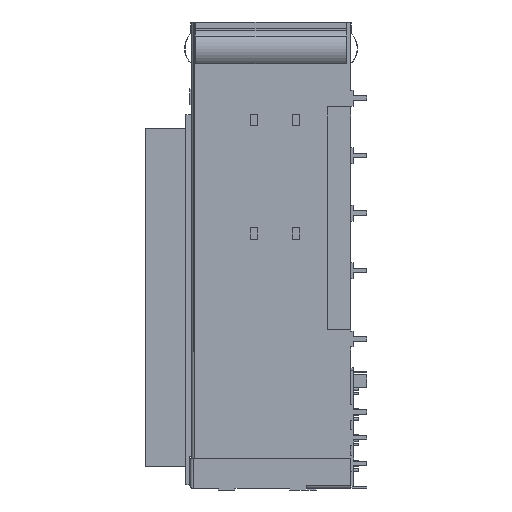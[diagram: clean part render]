
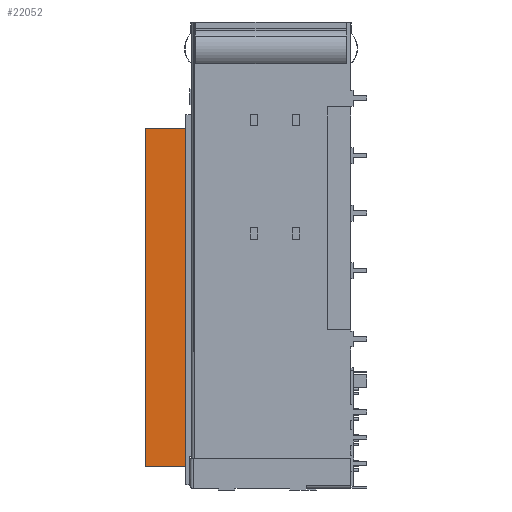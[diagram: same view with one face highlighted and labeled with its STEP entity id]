
A CAD part, left-side view. The second image highlights one B-rep face of the part: STEP entity #22052.
In plain terms, the highlighted planar face has unit normal (-1, 0, 0) as drawn and (0, 0, -1) by its records, which use the part's own axes.
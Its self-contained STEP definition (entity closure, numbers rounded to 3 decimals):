
#3039 = VECTOR ( 'NONE', #6416, 1000. ) ;
#3883 = LINE ( 'NONE', #42504, #30428 ) ;
#4811 = ORIENTED_EDGE ( 'NONE', *, *, #37477, .F. ) ;
#5208 = AXIS2_PLACEMENT_3D ( 'NONE', #56391, #24485, #61745 ) ;
#6416 = DIRECTION ( 'NONE',  ( 0., 1., 0. ) ) ;
#7066 = CARTESIAN_POINT ( 'NONE',  ( 36.595, 0.9, -7.45 ) ) ;
#10461 = VECTOR ( 'NONE', #36310, 1000. ) ;
#12436 = DIRECTION ( 'NONE',  ( 0., -1., 0. ) ) ;
#13809 = LINE ( 'NONE', #15226, #10461 ) ;
#14325 = LINE ( 'NONE', #44218, #30094 ) ;
#15226 = CARTESIAN_POINT ( 'NONE',  ( 25.68, 0.9, -7.45 ) ) ;
#16850 = CARTESIAN_POINT ( 'NONE',  ( 36.595, 0.9, -7.45 ) ) ;
#17124 = LINE ( 'NONE', #16850, #3039 ) ;
#21407 = CARTESIAN_POINT ( 'NONE',  ( 36.595, 7.27, -7.45 ) ) ;
#22052 = ADVANCED_FACE ( 'NONE', ( #38521 ), #34960, .T. ) ;
#23178 = EDGE_LOOP ( 'NONE', ( #48803, #50667, #63454, #4811 ) ) ;
#24155 = EDGE_CURVE ( 'NONE', #67700, #41564, #14325, .T. ) ;
#24485 = DIRECTION ( 'NONE',  ( 0., 0., -1. ) ) ;
#29942 = EDGE_CURVE ( 'NONE', #36503, #67700, #3883, .T. ) ;
#30094 = VECTOR ( 'NONE', #12436, 1000. ) ;
#30428 = VECTOR ( 'NONE', #47858, 1000. ) ;
#34960 = PLANE ( 'NONE',  #5208 ) ;
#36310 = DIRECTION ( 'NONE',  ( 1., 0., 0. ) ) ;
#36503 = VERTEX_POINT ( 'NONE', #21407 ) ;
#37477 = EDGE_CURVE ( 'NONE', #68035, #36503, #17124, .T. ) ;
#38521 = FACE_OUTER_BOUND ( 'NONE', #23178, .T. ) ;
#39911 = CARTESIAN_POINT ( 'NONE',  ( -16.405, 0.9, -7.45 ) ) ;
#41564 = VERTEX_POINT ( 'NONE', #39911 ) ;
#42504 = CARTESIAN_POINT ( 'NONE',  ( 32.995, 7.27, -7.45 ) ) ;
#44218 = CARTESIAN_POINT ( 'NONE',  ( -16.405, 7.27, -7.45 ) ) ;
#47858 = DIRECTION ( 'NONE',  ( -1., 0., 0. ) ) ;
#48803 = ORIENTED_EDGE ( 'NONE', *, *, #49887, .F. ) ;
#49887 = EDGE_CURVE ( 'NONE', #41564, #68035, #13809, .T. ) ;
#50667 = ORIENTED_EDGE ( 'NONE', *, *, #24155, .F. ) ;
#56391 = CARTESIAN_POINT ( 'NONE',  ( 45.017, 0.9, -7.45 ) ) ;
#57096 = CARTESIAN_POINT ( 'NONE',  ( -16.405, 7.27, -7.45 ) ) ;
#61745 = DIRECTION ( 'NONE',  ( 0., 1., 0. ) ) ;
#63454 = ORIENTED_EDGE ( 'NONE', *, *, #29942, .F. ) ;
#67700 = VERTEX_POINT ( 'NONE', #57096 ) ;
#68035 = VERTEX_POINT ( 'NONE', #7066 ) ;
